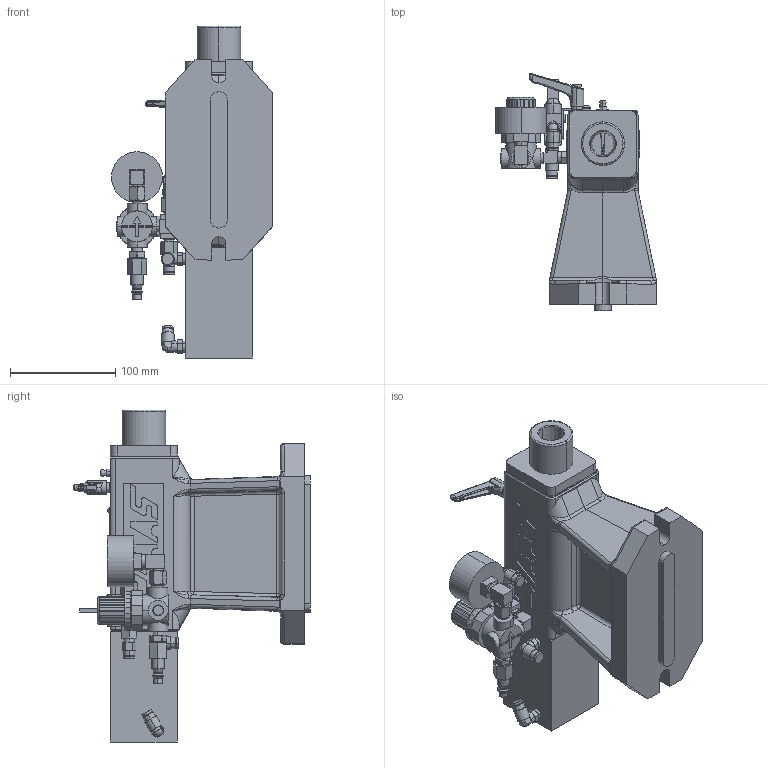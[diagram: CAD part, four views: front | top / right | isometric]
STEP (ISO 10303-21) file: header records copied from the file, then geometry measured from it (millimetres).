
FILE_DESCRIPTION (( 'STEP AP214' ), '1' );
FILE_NAME ('HPTS6_STEP_2020-03.STEP', '2020-03-31T22:48:33', ( '' ), ( '' ), 'SwSTEP 2.0', 'SolidWorks 2019', '' );
FILE_SCHEMA (( 'AUTOMOTIVE_DESIGN' ));
Length unit declared in the file: inch
Products named in the file (1): HPTS6_STEP_2020-03
Bounding box: 152.67 x 224.81 x 315.17 mm (x, y, z)
Volume: 2118472.2 mm3; surface area: 229421.8 mm2
Topology: 4 solids, 14 shells, 1075 faces, 2728 edges, 1749 vertices
Faces by surface type: plane 532, cylinder 354, cone 80, bspline 72, sphere 25, torus 12
Entity records: 42554 total; most frequent: CARTESIAN_POINT 11514, ORIENTED_EDGE 5424, DIRECTION 5186, EDGE_CURVE 2712, AXIS2_PLACEMENT_3D 1853, VERTEX_POINT 1746, LINE 1480, VECTOR 1480
